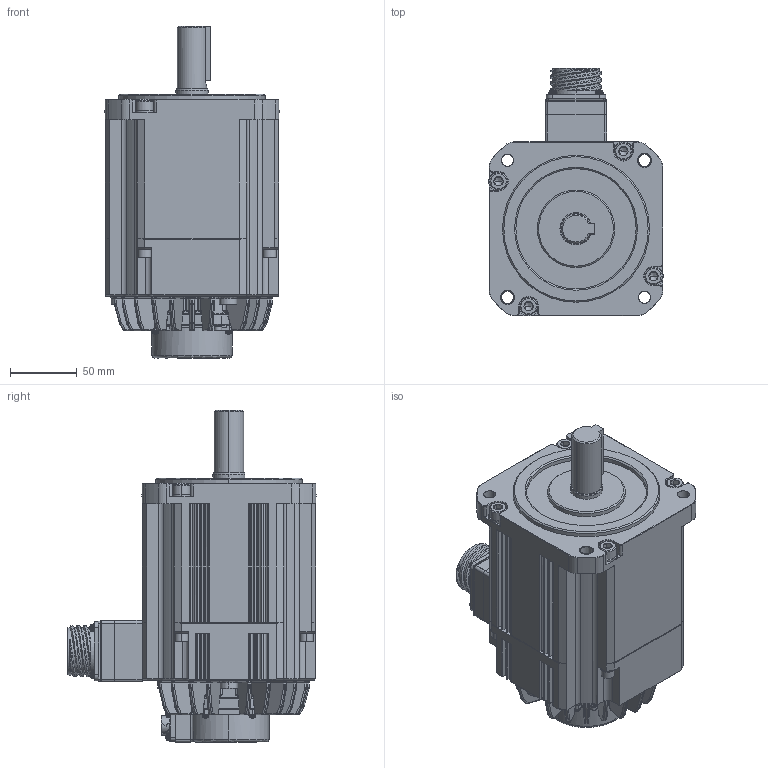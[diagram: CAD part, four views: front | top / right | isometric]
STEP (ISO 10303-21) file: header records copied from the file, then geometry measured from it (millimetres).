
FILE_DESCRIPTION (( 'STEP AP203' ), '1' );
FILE_NAME ('TSM3506N7371E733‘•”z•Ð.STEP', '2018-06-25T02:25:19', ( '' ), ( '' ), 'SwSTEP 2.0', 'SolidWorks 2017', '' );
FILE_SCHEMA (( 'CONFIG_CONTROL_DESIGN' ));
Products named in the file (3): TSM3506N7371E733装配片; 螺紋孔
Assembly tree (2 placements, depth 2):
  TSM3506N7371E733装配片
    TSM3506N7371E733装配片
    螺紋孔
Bounding box: 130.5 x 185.7 x 248.5 mm (x, y, z)
Surface area: 176671.8 mm2 (no closed solid volume)
Topology: 0 solids, 15 shells, 3125 faces, 7835 edges, 4731 vertices
Faces by surface type: bspline 1095, plane 1038, cylinder 771, cone 221
Entity records: 153968 total; most frequent: CARTESIAN_POINT 87644, ORIENTED_EDGE 15406, DIRECTION 11271, EDGE_CURVE 7730, VERTEX_POINT 4731, AXIS2_PLACEMENT_3D 3829, VECTOR 3613, LINE 3613
